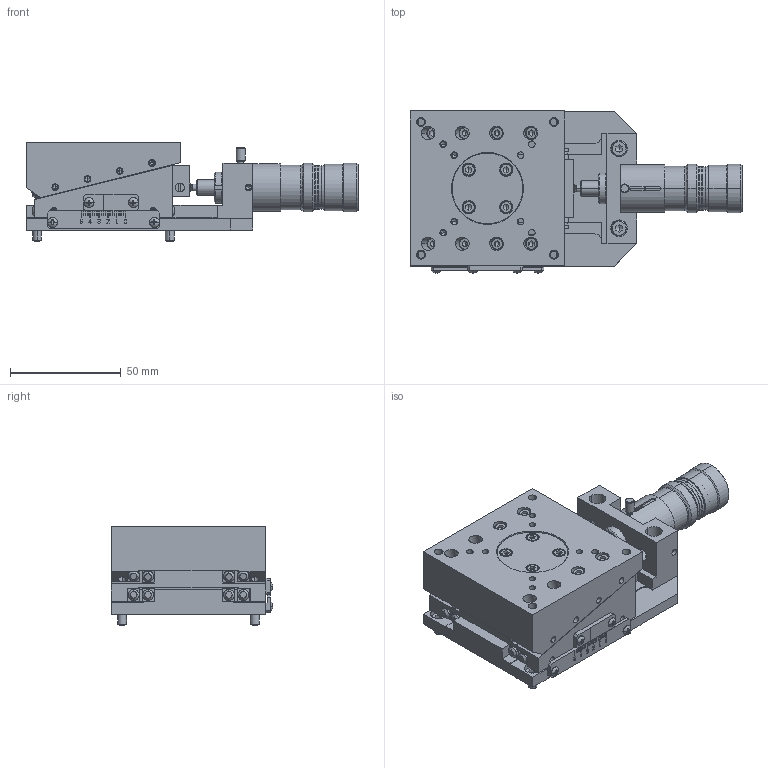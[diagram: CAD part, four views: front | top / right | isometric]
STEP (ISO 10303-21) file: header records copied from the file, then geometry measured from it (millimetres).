
FILE_DESCRIPTION (( 'STEP AP203' ), '1' );
FILE_NAME ('ZM07A-C3C.STEP', '2015-05-21T09:25:53', ( '' ), ( '' ), 'SwSTEP 2.0', 'SolidWorks 2011', '' );
FILE_SCHEMA (( 'CONFIG_CONTROL_DESIGN' ));
Products named in the file (10): ZM07A-C3C; LowHeadCapM4×6-3; LowHeadCapM4×6-2; LowHeadCapM4×6-1; LowHeadCapM4×6; table-24; base-33; wedge; wedge-Part-2; wedge-Part-1
Assembly tree (9 placements, depth 3):
  ZM07A-C3C
    LowHeadCapM4×6-1
    LowHeadCapM4×6
    LowHeadCapM4×6-3
    base-33
    LowHeadCapM4×6-2
    table-24
    wedge
      wedge-Part-1
      wedge-Part-2
Bounding box: 150 x 73.18 x 45 mm (x, y, z)
Volume: 201385.1 mm3; surface area: 81158.7 mm2
Topology: 8 solids, 62 shells, 2364 faces, 5234 edges, 3062 vertices
Faces by surface type: plane 1158, cylinder 706, cone 484, sphere 12, torus 4
Entity records: 65023 total; most frequent: DIRECTION 11752, CARTESIAN_POINT 11271, ORIENTED_EDGE 10152, EDGE_CURVE 5076, AXIS2_PLACEMENT_3D 4399, VERTEX_POINT 3062, LINE 2954, VECTOR 2954
